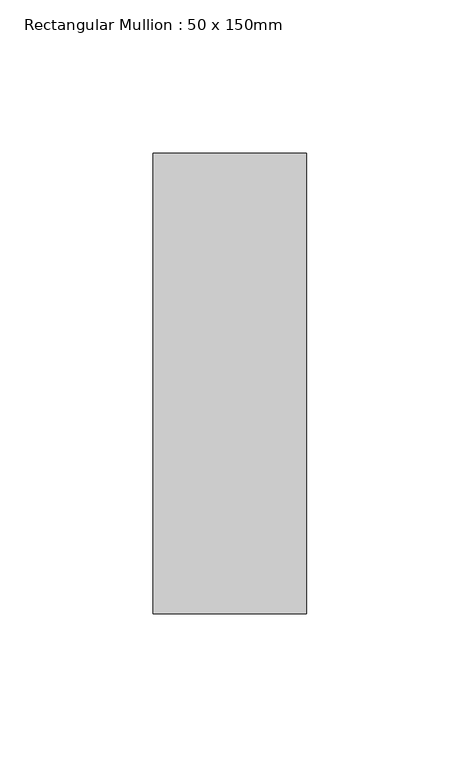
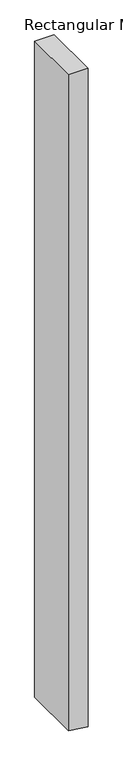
"""IFC4 building model written with IfcOpenShell, lengths in millimetres: member geometry, Rectangular Mullion : 50 x 150mm."""

from ifc_helpers import new_model, si_unit, frame, origin, place, context, project, spatial, polyline, outline, extrude, source, transform, mapped, element, save


def rectangular_mullion_50_x_150mm_3bd01bf1(model_context):
    return source(origin(), model_context, "Body", "SweptSolid", [
        extrude(outline(polyline([(0.0, 25.0), (0.0, -25.0), (-1778.5229457, -25.0), (-1782.003105, 5.6423937), (-1784.2016132, 25.0), (0.0, 25.0)])), frame((0.0, -75.0, 0.0), z_axis=(0.0, 1.0, 0.0), x_axis=(0.0, 0.0, 1.0)), (0.0, 0.0, 1.0), 150.0),
    ])


if __name__ == "__main__":
    model = new_model("IFC4")
    model_context = context("Model", 3, world=origin())
    ifc_project = project(units=[si_unit("LENGTHUNIT", "METRE", prefix="MILLI")], contexts=[model_context])
    site = spatial("IfcSite", under=ifc_project)
    building = spatial("IfcBuilding", under=site)
    placement = place(None, origin())
    rectangular_mullion_50_x_150mm_shape = rectangular_mullion_50_x_150mm_3bd01bf1(model_context)
    element("IfcMember", 1, ObjectType="Rectangular Mullion : 50 x 150mm", at=placement, inside=building, context=model_context, shape_type="MappedRepresentation", body=[
        mapped(rectangular_mullion_50_x_150mm_shape, transform((0.0, 0.0, 0.0), x_axis=(1.0, 0.0, 0.0), y_axis=(0.0, 1.0, 0.0), z_axis=(0.0, 0.0, 1.0))),
    ])
    save(model, "model.ifc")
